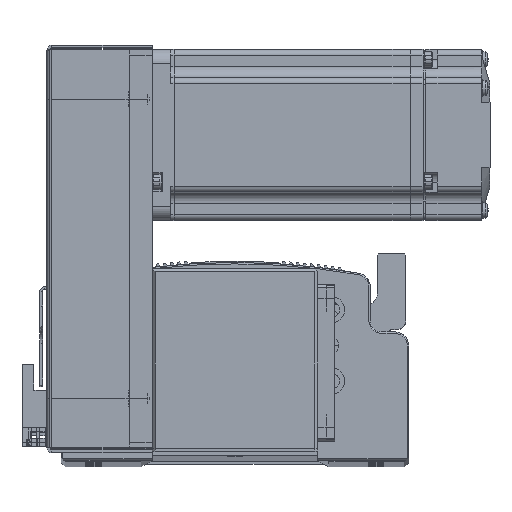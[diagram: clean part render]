
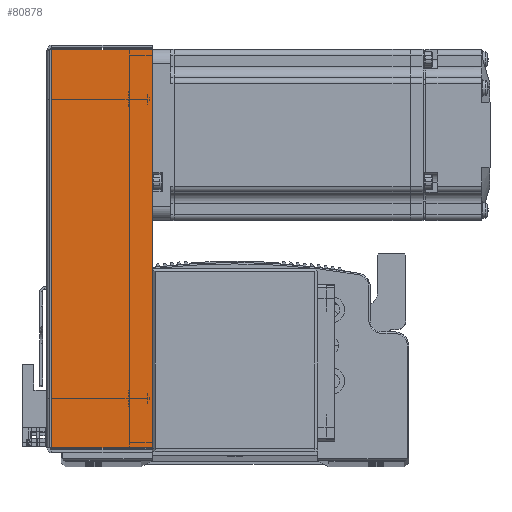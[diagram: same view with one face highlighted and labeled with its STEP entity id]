
A CAD part, top view. The second image highlights one B-rep face of the part: STEP entity #80878.
In plain terms, the highlighted planar face has unit normal (0, 0, 1) as drawn and (0, 0, -1) by its records, which use the part's own axes.
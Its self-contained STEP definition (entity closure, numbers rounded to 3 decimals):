
#2506 = CARTESIAN_POINT ( 'NONE',  ( 69.793, 0.737, -33.5 ) ) ;
#2515 = CARTESIAN_POINT ( 'NONE',  ( -69.793, 0.737, -33.5 ) ) ;
#2534 = CARTESIAN_POINT ( 'NONE',  ( 69.793, 36., -33.5 ) ) ;
#2597 = CARTESIAN_POINT ( 'NONE',  ( -69.793, 36., -33.5 ) ) ;
#16948 = VERTEX_POINT ( 'NONE', #2506 ) ;
#16996 = VERTEX_POINT ( 'NONE', #2515 ) ;
#17011 = VERTEX_POINT ( 'NONE', #2534 ) ;
#17102 = VERTEX_POINT ( 'NONE', #2597 ) ;
#30432 = LINE ( 'NONE', #95379, #30443 ) ;
#30443 = VECTOR ( 'NONE', #95426, 1000. ) ;
#30491 = LINE ( 'NONE', #95635, #30492 ) ;
#30492 = VECTOR ( 'NONE', #95650, 1000. ) ;
#30549 = VECTOR ( 'NONE', #95823, 1000. ) ;
#30554 = LINE ( 'NONE', #95814, #30549 ) ;
#30564 = VECTOR ( 'NONE', #95779, 1000. ) ;
#30572 = LINE ( 'NONE', #95761, #30564 ) ;
#47331 = AXIS2_PLACEMENT_3D ( 'NONE', #73205, #73216, #73266 ) ;
#48266 = EDGE_CURVE ( 'NONE', #16948, #17011, #30432, .T. ) ;
#48355 = EDGE_CURVE ( 'NONE', #16996, #16948, #30491, .T. ) ;
#48385 = EDGE_CURVE ( 'NONE', #17102, #17011, #30572, .T. ) ;
#48397 = EDGE_CURVE ( 'NONE', #16996, #17102, #30554, .T. ) ;
#68539 = ORIENTED_EDGE ( 'NONE', *, *, #48355, .F. ) ;
#68550 = ORIENTED_EDGE ( 'NONE', *, *, #48397, .T. ) ;
#68623 = ORIENTED_EDGE ( 'NONE', *, *, #48266, .F. ) ;
#68636 = ORIENTED_EDGE ( 'NONE', *, *, #48385, .T. ) ;
#73195 = PLANE ( 'NONE',  #47331 ) ;
#73205 = CARTESIAN_POINT ( 'NONE',  ( 0., 0., -33.5 ) ) ;
#73216 = DIRECTION ( 'NONE',  ( 0., 0., 1. ) ) ;
#73266 = DIRECTION ( 'NONE',  ( 0., -1., 0. ) ) ;
#76807 = FACE_OUTER_BOUND ( 'NONE', #93013, .T. ) ;
#80878 = ADVANCED_FACE ( 'NONE', ( #76807 ), #73195, .F. ) ;
#93013 = EDGE_LOOP ( 'NONE', ( #68539, #68550, #68636, #68623 ) ) ;
#95379 = CARTESIAN_POINT ( 'NONE',  ( 69.793, 0., -33.5 ) ) ;
#95426 = DIRECTION ( 'NONE',  ( 0., 1., 0. ) ) ;
#95635 = CARTESIAN_POINT ( 'NONE',  ( 71.5, 0.737, -33.5 ) ) ;
#95650 = DIRECTION ( 'NONE',  ( 1., 0., 0. ) ) ;
#95761 = CARTESIAN_POINT ( 'NONE',  ( 0., 36., -33.5 ) ) ;
#95779 = DIRECTION ( 'NONE',  ( 1., 0., 0. ) ) ;
#95814 = CARTESIAN_POINT ( 'NONE',  ( -69.793, 0., -33.5 ) ) ;
#95823 = DIRECTION ( 'NONE',  ( 0., 1., 0. ) ) ;
